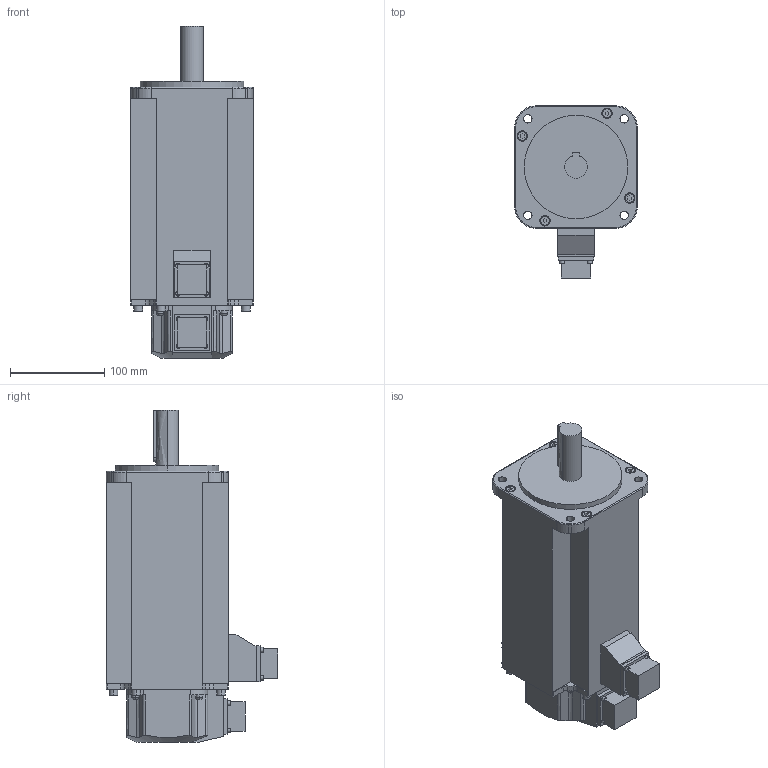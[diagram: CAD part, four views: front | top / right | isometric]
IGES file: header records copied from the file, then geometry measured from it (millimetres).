
Start section:  PTC IGES file: rsms_50ask3.igs
Global section: file name: rsms_50ask3.igs; native system: Pro/ENGINEER by Parametric Technology Corporation; preprocessor: 2004440; author: Administrator; organization: Unknown; date: 070829.195635; units: millimetre
Bounding box: 130 x 182.7 x 353 mm (x, y, z)
Volume: 3832474.6 mm3; surface area: 193104.6 mm2
Topology: 1 solids, 1 shells, 290 faces, 744 edges, 488 vertices
Faces by surface type: bspline 164, revolution 126
